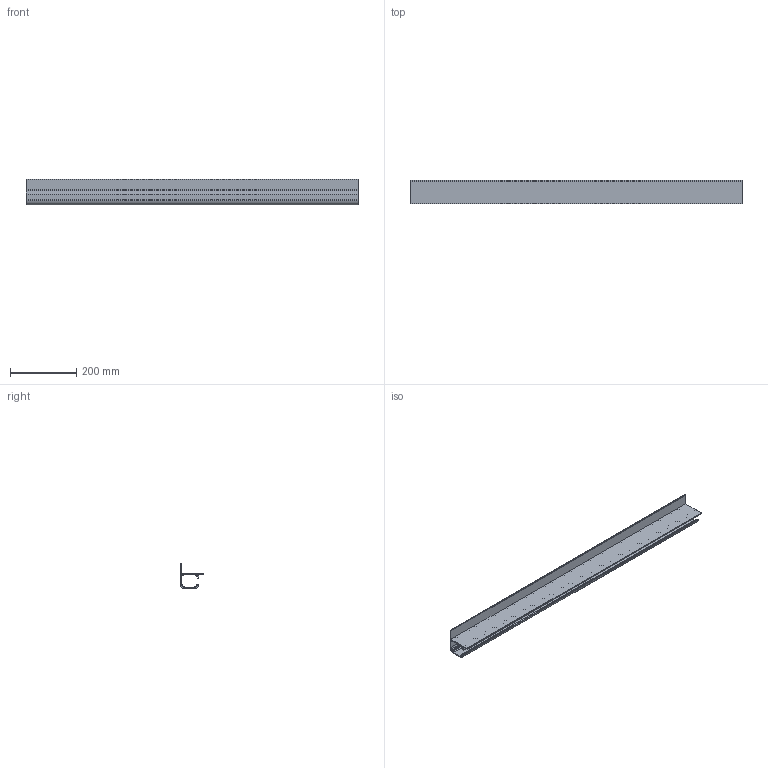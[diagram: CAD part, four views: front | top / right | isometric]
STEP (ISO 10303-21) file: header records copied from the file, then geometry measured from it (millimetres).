
FILE_DESCRIPTION (( 'STEP AP214' ), '1' );
FILE_NAME ('Oberes Führungsprofil.STEP', '2024-01-30T12:01:48', ( '' ), ( '' ), 'SwSTEP 2.0', 'SolidWorks 2024', '' );
FILE_SCHEMA (( 'AUTOMOTIVE_DESIGN' ));
Length unit declared in the file: millimetre
Products named in the file (1): Oberes Führungsprofil
Bounding box: 1000 x 72 x 78 mm (x, y, z)
Volume: 665710.6 mm3; surface area: 474423.7 mm2
Topology: 1 solids, 1 shells, 62 faces, 180 edges, 120 vertices
Faces by surface type: cylinder 42, plane 20
Entity records: 2111 total; most frequent: DIRECTION 390, CARTESIAN_POINT 363, ORIENTED_EDGE 360, EDGE_CURVE 180, AXIS2_PLACEMENT_3D 147, VERTEX_POINT 120, LINE 96, VECTOR 96
